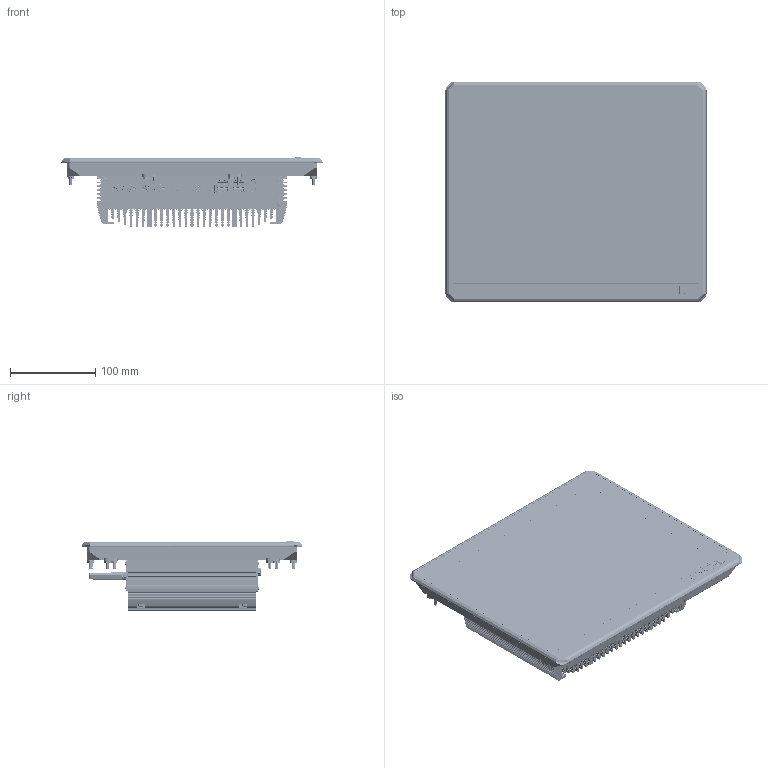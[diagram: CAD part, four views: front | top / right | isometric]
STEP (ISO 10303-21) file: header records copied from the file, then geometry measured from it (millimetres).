
FILE_DESCRIPTION (( 'STEP AP214' ), '1' );
FILE_NAME ('IDD22121.STEP', '2024-04-25T06:29:03', ( '' ), ( '' ), 'SwSTEP 2.0', 'SolidWorks 2018', '' );
FILE_SCHEMA (( 'AUTOMOTIVE_DESIGN' ));
Length unit declared in the file: millimetre
Products named in the file (1): IDD22121
Bounding box: 305.76 x 258.76 x 81.5 mm (x, y, z)
Topology: 0 solids, 916 shells, 13433 faces, 38679 edges, 26467 vertices
Faces by surface type: plane 7347, cylinder 4426, bspline 900, torus 511, cone 232, sphere 17
Entity records: 728500 total; most frequent: CARTESIAN_POINT 241469, ORIENTED_EDGE 73229, DIRECTION 62464, EDGE_CURVE 38574, VERTEX_POINT 26468, LINE 22692, VECTOR 22692, AXIS2_PLACEMENT_3D 19886
